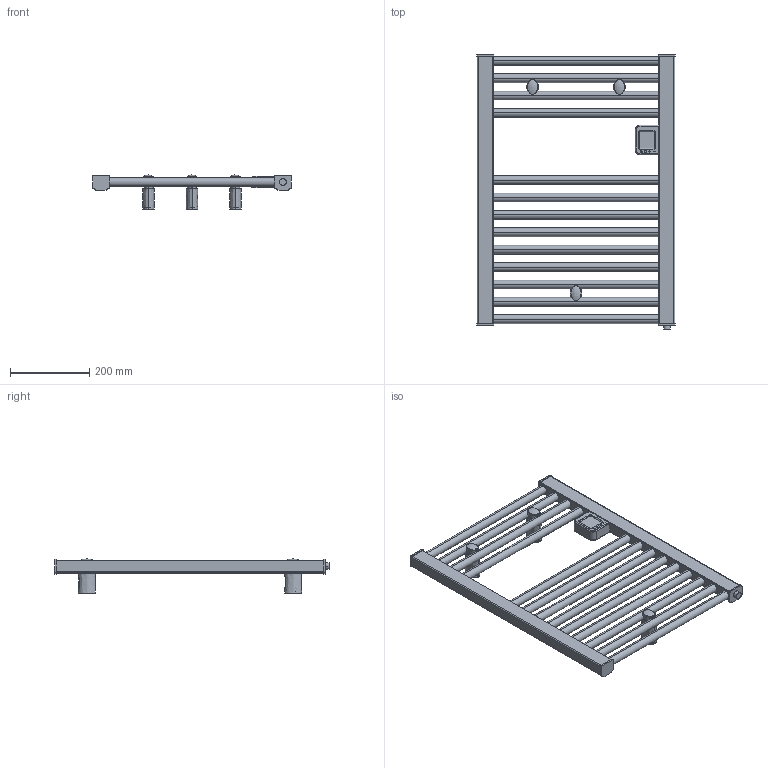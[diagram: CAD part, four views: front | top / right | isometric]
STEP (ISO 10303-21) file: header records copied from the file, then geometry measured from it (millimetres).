
FILE_DESCRIPTION((''),'2;1');
FILE_NAME('3581860150013_3D_SITO_ASM','2026-04-15T12:25:35',('PC104'),(''),'CREO PARAMETRIC BY PTC INC, 2025323','CREO PARAMETRIC BY PTC INC, 2025323','');
FILE_SCHEMA(('AUTOMOTIVE_DESIGN { 1 0 10303 214 1 1 1 1 }'));
Products named in the file (14): 3581860150001-13_3D_SITO_AF0; TMT_PRC_AF0; BICCHIERE_PARETE; PERNO_SCORROVOLE; PERNO_SCORREVOLE_AF0_ASM; BASETTA_ANTERIORE; 1527181430001; 1102001310058_AF0_ASM; PERNO_SCORREVOLE_AF1_ASM; 1102001310058_AF1_ASM; PERNO_SCORREVOLE_AF2_ASM; 1102001310058_AF2_ASM; 1102000000200_AF0_ASM; 3581860150013_3D_SITO_ASM
Assembly tree (21 placements, depth 5):
  3581860150013_3D_SITO_ASM
    3581860150001-13_3D_SITO_AF0
    TMT_PRC_AF0
    1102000000200_AF0_ASM
      1102001310058_AF0_ASM
        BICCHIERE_PARETE
        PERNO_SCORREVOLE_AF0_ASM
          PERNO_SCORROVOLE
        BASETTA_ANTERIORE
        1527181430001
      1102001310058_AF1_ASM
        BICCHIERE_PARETE
        PERNO_SCORREVOLE_AF1_ASM
          PERNO_SCORROVOLE
        BASETTA_ANTERIORE
        1527181430001
      1102001310058_AF2_ASM
        BICCHIERE_PARETE
        PERNO_SCORREVOLE_AF2_ASM
          PERNO_SCORROVOLE
        BASETTA_ANTERIORE
        1527181430001
Bounding box: 503.5 x 695 x 86.46 mm (x, y, z)
Volume: 4018974.4 mm3; surface area: 686857.3 mm2
Topology: 25 solids, 25 shells, 4240 faces, 10457 edges, 6319 vertices
Faces by surface type: cylinder 1694, plane 756, torus 648, sphere 570, bspline 486, extrusion 56, cone 30
Entity records: 96705 total; most frequent: CARTESIAN_POINT 28617, DIRECTION 9706, ORIENTED_EDGE 7014, PRESENTATION_STYLE_ASSIGNMENT 4820, STYLED_ITEM 4818, CURVE_STYLE 4801, EDGE_CURVE 3507, AXIS2_PLACEMENT_3D 3453
